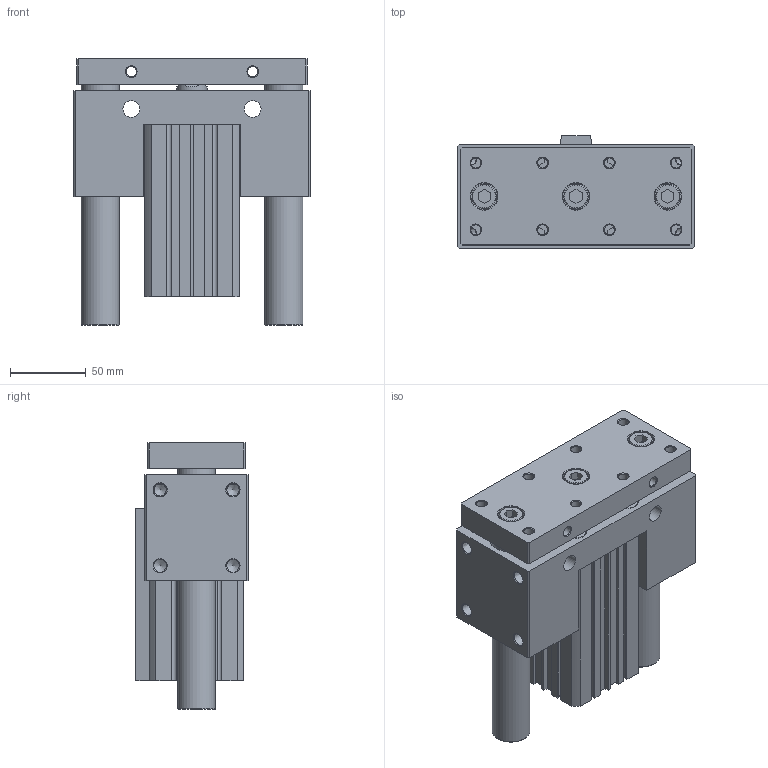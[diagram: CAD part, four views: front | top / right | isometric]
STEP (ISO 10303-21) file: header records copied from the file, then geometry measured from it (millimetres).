
FILE_DESCRIPTION((''),'2;1');
FILE_NAME('I:\3D電子目錄\氣缸\JCB\JCB\JCB50\JCB50x85.stp','2007-08-30T16:26:52',('Administrator'),(''),'Autodesk Inventor 11','Autodesk Inventor 11','');
FILE_SCHEMA(('AUTOMOTIVE_DESIGN { 1 0 10303 214 1 1 1 1 }'));
Length unit declared in the file: millimetre
Products named in the file (1): JCB50
Bounding box: 156 x 74 x 175.5 mm (x, y, z)
Volume: 1122141.4 mm3; surface area: 197512.8 mm2
Topology: 3 solids, 3 shells, 328 faces, 786 edges, 510 vertices
Faces by surface type: plane 190, cylinder 58, cone 45, bspline 31, torus 4
Full cylindrical faces by diameter (mm): 2.7 x2, 6.8 x4, 8.376 x4, 11 x8, 13 x4, 14 x4, 16 x3, 17.5 x3, 20 x1, 21 x1, 25 x2, 28 x2, 37 x1, 38 x1, 52 x4, 55 x2
Entity records: 9390 total; most frequent: CARTESIAN_POINT 2294, DIRECTION 1434, ORIENTED_EDGE 1264, EDGE_CURVE 632, EDGE_LOOP 536, AXIS2_PLACEMENT_3D 512, VERTEX_POINT 480, VECTOR 410
